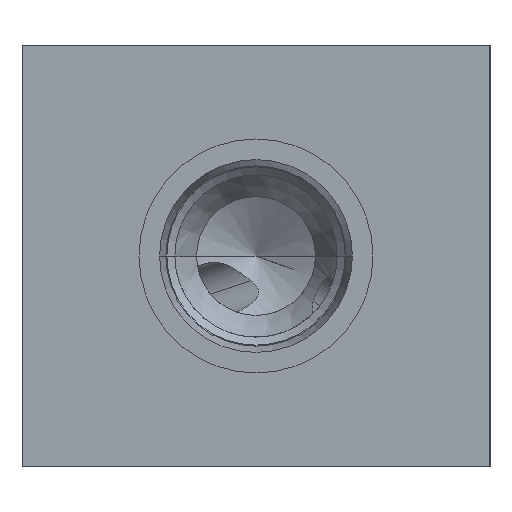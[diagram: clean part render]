
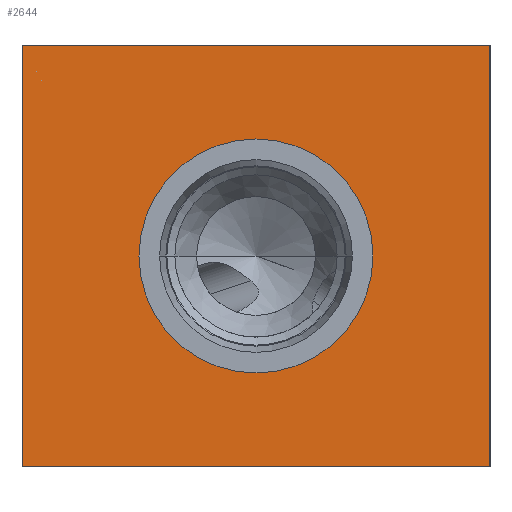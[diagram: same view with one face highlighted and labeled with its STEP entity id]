
A CAD part, left-side view. The second image highlights one B-rep face of the part: STEP entity #2644.
In plain terms, the highlighted planar face has unit normal (-1, 0, 0).
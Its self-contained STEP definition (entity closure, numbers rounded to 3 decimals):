
#23=DIRECTION('',(0.,0.,-1.));
#24=VECTOR('',#23,45.);
#25=CARTESIAN_POINT('',(0.,0.,0.));
#26=LINE('',#25,#24);
#31=DIRECTION('',(0.,1.,0.));
#32=VECTOR('',#31,50.);
#33=CARTESIAN_POINT('',(0.,0.,-45.));
#34=LINE('',#33,#32);
#38=DIRECTION('',(0.,0.,1.));
#39=VECTOR('',#38,45.);
#40=CARTESIAN_POINT('',(0.,50.,-45.));
#41=LINE('',#40,#39);
#45=DIRECTION('',(0.,-1.,0.));
#46=VECTOR('',#45,50.);
#47=CARTESIAN_POINT('',(0.,50.,0.));
#48=LINE('',#47,#46);
#52=CARTESIAN_POINT('',(0.,25.,-22.5));
#53=DIRECTION('',(1.,0.,0.));
#54=DIRECTION('',(0.,-1.,0.));
#55=AXIS2_PLACEMENT_3D('',#52,#53,#54);
#60=CARTESIAN_POINT('',(0.,25.,-22.5));
#61=DIRECTION('',(1.,0.,0.));
#62=DIRECTION('',(0.,1.,0.));
#63=AXIS2_PLACEMENT_3D('',#60,#61,#62);
#2366=CARTESIAN_POINT('',(0.,0.,0.));
#2367=CARTESIAN_POINT('',(0.,0.,-45.));
#2368=VERTEX_POINT('',#2366);
#2369=VERTEX_POINT('',#2367);
#2370=CARTESIAN_POINT('',(0.,50.,-45.));
#2371=VERTEX_POINT('',#2370);
#2372=CARTESIAN_POINT('',(0.,50.,0.));
#2373=VERTEX_POINT('',#2372);
#2486=CARTESIAN_POINT('',(0.,12.5,-22.5));
#2487=VERTEX_POINT('',#2486);
#2488=CARTESIAN_POINT('',(0.,37.5,-22.5));
#2489=VERTEX_POINT('',#2488);
#2623=CARTESIAN_POINT('',(0.,0.,0.));
#2624=DIRECTION('',(1.,0.,0.));
#2625=DIRECTION('',(0.,0.,-1.));
#2626=AXIS2_PLACEMENT_3D('',#2623,#2624,#2625);
#2627=PLANE('',#2626);
#2629=ORIENTED_EDGE('',*,*,#2628,.T.);
#2631=ORIENTED_EDGE('',*,*,#2630,.T.);
#2633=ORIENTED_EDGE('',*,*,#2632,.T.);
#2635=ORIENTED_EDGE('',*,*,#2634,.T.);
#2636=EDGE_LOOP('',(#2629,#2631,#2633,#2635));
#2637=FACE_OUTER_BOUND('',#2636,.F.);
#2639=ORIENTED_EDGE('',*,*,#2638,.F.);
#2641=ORIENTED_EDGE('',*,*,#2640,.F.);
#2642=EDGE_LOOP('',(#2639,#2641));
#2643=FACE_BOUND('',#2642,.F.);
#56=CIRCLE('',#55,12.5);
#64=CIRCLE('',#63,12.5);
#2628=EDGE_CURVE('',#2368,#2369,#26,.T.);
#2630=EDGE_CURVE('',#2369,#2371,#34,.T.);
#2632=EDGE_CURVE('',#2371,#2373,#41,.T.);
#2634=EDGE_CURVE('',#2373,#2368,#48,.T.);
#2638=EDGE_CURVE('',#2487,#2489,#56,.T.);
#2640=EDGE_CURVE('',#2489,#2487,#64,.T.);
#2644=ADVANCED_FACE('',(#2637,#2643),#2627,.F.);
